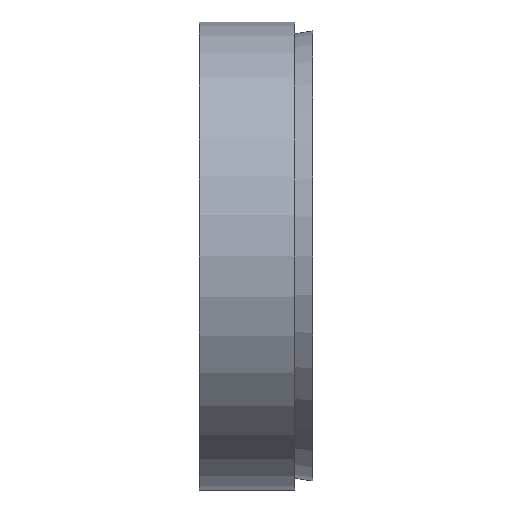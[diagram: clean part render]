
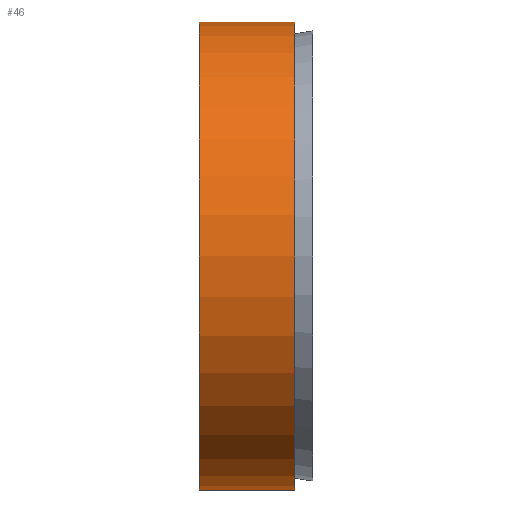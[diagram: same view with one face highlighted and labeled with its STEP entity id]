
A CAD part, left-side view. The second image highlights one B-rep face of the part: STEP entity #46.
In plain terms, the highlighted cylindrical face has radius 13 mm (diameter 26 mm), a full revolution.
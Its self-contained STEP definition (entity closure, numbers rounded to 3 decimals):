
#46 = ADVANCED_FACE( '', ( #93, #94 ), #95, .T. );
#93 = FACE_OUTER_BOUND( '', #132, .T. );
#94 = FACE_OUTER_BOUND( '', #133, .T. );
#95 = CYLINDRICAL_SURFACE( '', #134, 13. );
#132 = EDGE_LOOP( '', ( #179 ) );
#133 = EDGE_LOOP( '', ( #180 ) );
#134 = AXIS2_PLACEMENT_3D( '', #181, #182, #183 );
#179 = ORIENTED_EDGE( '', *, *, #189, .F. );
#180 = ORIENTED_EDGE( '', *, *, #198, .T. );
#181 = CARTESIAN_POINT( '', ( 0., -60., 0. ) );
#182 = DIRECTION( '', ( 0., 1., 0. ) );
#183 = DIRECTION( '', ( 0., 0., -1. ) );
#189 = EDGE_CURVE( '', #208, #208, #209, .T. );
#198 = EDGE_CURVE( '', #221, #221, #222, .T. );
#208 = VERTEX_POINT( '', #232 );
#209 = CIRCLE( '', #233, 13. );
#221 = VERTEX_POINT( '', #245 );
#222 = CIRCLE( '', #246, 13. );
#232 = CARTESIAN_POINT( '', ( 0., 1., -13. ) );
#233 = AXIS2_PLACEMENT_3D( '', #257, #258, #259 );
#245 = CARTESIAN_POINT( '', ( 0., 6.3, -13. ) );
#246 = AXIS2_PLACEMENT_3D( '', #269, #270, #271 );
#257 = CARTESIAN_POINT( '', ( 0., 1., 0. ) );
#258 = DIRECTION( '', ( 0., -1., 0. ) );
#259 = DIRECTION( '', ( 0., 0., -1. ) );
#269 = CARTESIAN_POINT( '', ( 0., 6.3, 0. ) );
#270 = DIRECTION( '', ( 0., -1., 0. ) );
#271 = DIRECTION( '', ( 0., 0., -1. ) );
